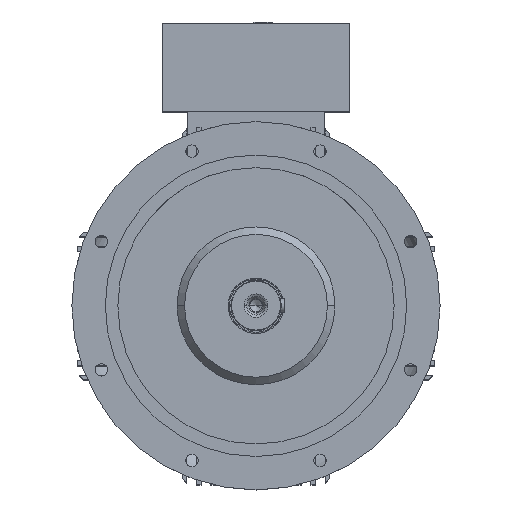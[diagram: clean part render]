
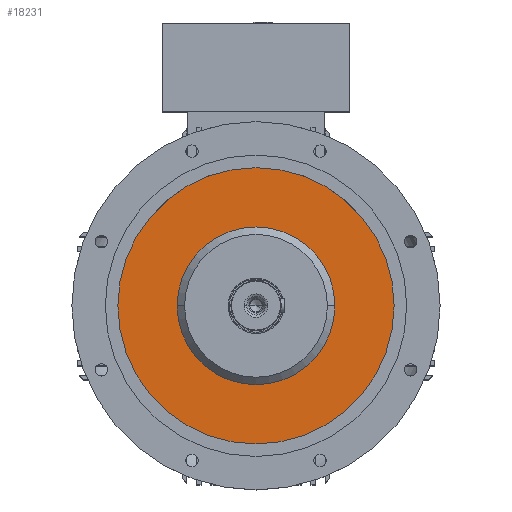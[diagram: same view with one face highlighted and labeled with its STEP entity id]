
A CAD part, top view. The second image highlights one B-rep face of the part: STEP entity #18231.
In plain terms, the highlighted planar face has unit normal (0, 0, 1).
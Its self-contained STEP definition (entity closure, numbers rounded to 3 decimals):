
#507 = ORIENTED_EDGE ( 'NONE', *, *, #17253, .T. ) ;
#2111 = CIRCLE ( 'NONE', #28605, 206.25 ) ;
#2847 = CARTESIAN_POINT ( 'NONE',  ( 117.8, 0., 386.3 ) ) ;
#2880 = CARTESIAN_POINT ( 'NONE',  ( 206.25, 0., 386.3 ) ) ;
#3406 = AXIS2_PLACEMENT_3D ( 'NONE', #6209, #6780, #18027 ) ;
#3625 = CARTESIAN_POINT ( 'NONE',  ( -117.8, 0., 386.3 ) ) ;
#4454 = CARTESIAN_POINT ( 'NONE',  ( 0., 0., 386.3 ) ) ;
#4808 = EDGE_CURVE ( 'NONE', #14339, #8281, #13379, .T. ) ;
#5214 = DIRECTION ( 'NONE',  ( 0., 0., -1. ) ) ;
#5968 = EDGE_LOOP ( 'NONE', ( #507, #15064 ) ) ;
#6209 = CARTESIAN_POINT ( 'NONE',  ( 0., 206.25, 386.3 ) ) ;
#6780 = DIRECTION ( 'NONE',  ( 0., 0., 1. ) ) ;
#7161 = CARTESIAN_POINT ( 'NONE',  ( 0., 0., 386.3 ) ) ;
#8281 = VERTEX_POINT ( 'NONE', #2847 ) ;
#8433 = EDGE_LOOP ( 'NONE', ( #14004, #11918 ) ) ;
#9243 = PLANE ( 'NONE',  #3406 ) ;
#9607 = AXIS2_PLACEMENT_3D ( 'NONE', #7161, #5214, #22866 ) ;
#10399 = DIRECTION ( 'NONE',  ( -1., 0., 0. ) ) ;
#11918 = ORIENTED_EDGE ( 'NONE', *, *, #28378, .T. ) ;
#12612 = DIRECTION ( 'NONE',  ( 0., 0., 1. ) ) ;
#12800 = CARTESIAN_POINT ( 'NONE',  ( 0., 0., 386.3 ) ) ;
#13379 = CIRCLE ( 'NONE', #9607, 117.8 ) ;
#13607 = FACE_BOUND ( 'NONE', #8433, .T. ) ;
#14004 = ORIENTED_EDGE ( 'NONE', *, *, #4808, .T. ) ;
#14339 = VERTEX_POINT ( 'NONE', #3625 ) ;
#15064 = ORIENTED_EDGE ( 'NONE', *, *, #28105, .T. ) ;
#15103 = VERTEX_POINT ( 'NONE', #2880 ) ;
#15670 = DIRECTION ( 'NONE',  ( -1., 0., 0. ) ) ;
#16984 = CARTESIAN_POINT ( 'NONE',  ( 0., 0., 386.3 ) ) ;
#17253 = EDGE_CURVE ( 'NONE', #23433, #15103, #22702, .T. ) ;
#18027 = DIRECTION ( 'NONE',  ( 1., 0., 0. ) ) ;
#18231 = ADVANCED_FACE ( 'NONE', ( #13607, #19450 ), #9243, .T. ) ;
#19450 = FACE_OUTER_BOUND ( 'NONE', #5968, .T. ) ;
#21340 = DIRECTION ( 'NONE',  ( -1., 0., 0. ) ) ;
#21423 = CIRCLE ( 'NONE', #26582, 117.8 ) ;
#22702 = CIRCLE ( 'NONE', #28527, 206.25 ) ;
#22866 = DIRECTION ( 'NONE',  ( -1., 0., 0. ) ) ;
#23433 = VERTEX_POINT ( 'NONE', #25428 ) ;
#25428 = CARTESIAN_POINT ( 'NONE',  ( -206.25, 0., 386.3 ) ) ;
#25780 = DIRECTION ( 'NONE',  ( 0., 0., 1. ) ) ;
#26582 = AXIS2_PLACEMENT_3D ( 'NONE', #4454, #26727, #15670 ) ;
#26727 = DIRECTION ( 'NONE',  ( 0., 0., -1. ) ) ;
#28105 = EDGE_CURVE ( 'NONE', #15103, #23433, #2111, .T. ) ;
#28378 = EDGE_CURVE ( 'NONE', #8281, #14339, #21423, .T. ) ;
#28527 = AXIS2_PLACEMENT_3D ( 'NONE', #12800, #12612, #10399 ) ;
#28605 = AXIS2_PLACEMENT_3D ( 'NONE', #16984, #25780, #21340 ) ;
